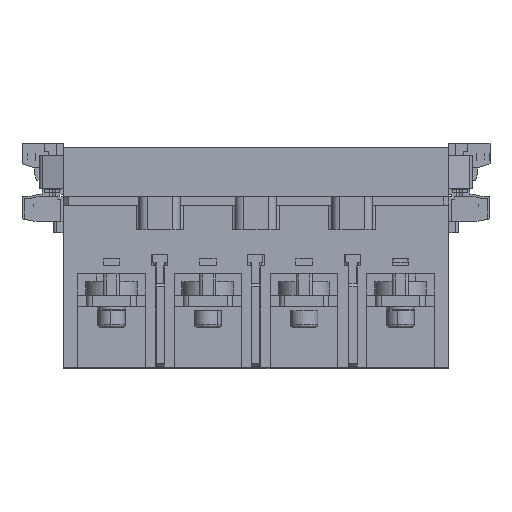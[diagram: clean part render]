
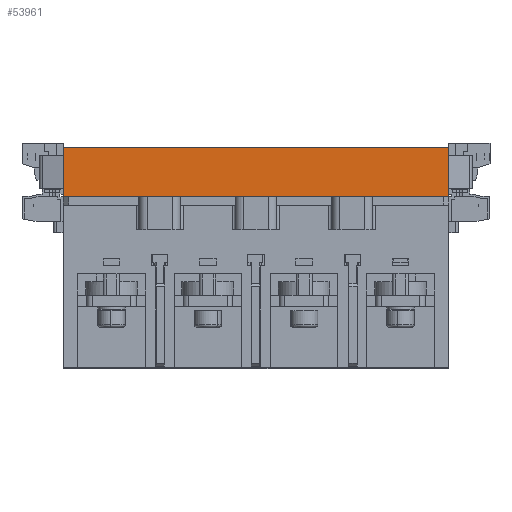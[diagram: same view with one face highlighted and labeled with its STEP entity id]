
A CAD part, front view. The second image highlights one B-rep face of the part: STEP entity #53961.
In plain terms, the highlighted planar face has unit normal (0, -1, 0).
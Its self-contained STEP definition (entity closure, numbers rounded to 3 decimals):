
#410 = CARTESIAN_POINT ( 'NONE',  ( 55.903, -53.647, 40. ) ) ;
#893 = VECTOR ( 'NONE', #31190, 1000. ) ;
#2138 = VECTOR ( 'NONE', #10526, 1000. ) ;
#5914 = VERTEX_POINT ( 'NONE', #31736 ) ;
#7305 = FACE_OUTER_BOUND ( 'NONE', #37268, .T. ) ;
#7423 = ORIENTED_EDGE ( 'NONE', *, *, #21860, .F. ) ;
#10526 = DIRECTION ( 'NONE',  ( 0., 0., -1. ) ) ;
#11222 = DIRECTION ( 'NONE',  ( 0., 1., 0. ) ) ;
#14968 = LINE ( 'NONE', #410, #2138 ) ;
#16946 = VERTEX_POINT ( 'NONE', #38004 ) ;
#17527 = CARTESIAN_POINT ( 'NONE',  ( -84.097, -53.647, 40. ) ) ;
#19989 = CARTESIAN_POINT ( 'NONE',  ( -84.097, -53.647, 22. ) ) ;
#21860 = EDGE_CURVE ( 'NONE', #23850, #16946, #43784, .T. ) ;
#22978 = CARTESIAN_POINT ( 'NONE',  ( -84.097, -53.647, 40. ) ) ;
#23850 = VERTEX_POINT ( 'NONE', #22978 ) ;
#26841 = EDGE_CURVE ( 'NONE', #5914, #45110, #50026, .T. ) ;
#30940 = DIRECTION ( 'NONE',  ( -1., 0., 0. ) ) ;
#31190 = DIRECTION ( 'NONE',  ( 1., 0., 0. ) ) ;
#31736 = CARTESIAN_POINT ( 'NONE',  ( 55.903, -53.647, 22. ) ) ;
#34529 = CARTESIAN_POINT ( 'NONE',  ( -84.097, -53.647, 40. ) ) ;
#37268 = EDGE_LOOP ( 'NONE', ( #56310, #50331, #7423, #51619 ) ) ;
#38004 = CARTESIAN_POINT ( 'NONE',  ( 55.903, -53.647, 40. ) ) ;
#38722 = VECTOR ( 'NONE', #30940, 1000. ) ;
#39738 = VECTOR ( 'NONE', #60842, 1000. ) ;
#39978 = PLANE ( 'NONE',  #49807 ) ;
#41301 = LINE ( 'NONE', #46615, #39738 ) ;
#43784 = LINE ( 'NONE', #17527, #893 ) ;
#45057 = EDGE_CURVE ( 'NONE', #16946, #5914, #14968, .T. ) ;
#45110 = VERTEX_POINT ( 'NONE', #19989 ) ;
#46615 = CARTESIAN_POINT ( 'NONE',  ( -84.097, -53.647, 40. ) ) ;
#49272 = DIRECTION ( 'NONE',  ( 0., 0., 1. ) ) ;
#49807 = AXIS2_PLACEMENT_3D ( 'NONE', #34529, #11222, #49272 ) ;
#50026 = LINE ( 'NONE', #50485, #38722 ) ;
#50331 = ORIENTED_EDGE ( 'NONE', *, *, #45057, .F. ) ;
#50485 = CARTESIAN_POINT ( 'NONE',  ( 24.509, -53.647, 22. ) ) ;
#51619 = ORIENTED_EDGE ( 'NONE', *, *, #60455, .T. ) ;
#53961 = ADVANCED_FACE ( 'NONE', ( #7305 ), #39978, .F. ) ;
#56310 = ORIENTED_EDGE ( 'NONE', *, *, #26841, .F. ) ;
#60455 = EDGE_CURVE ( 'NONE', #23850, #45110, #41301, .T. ) ;
#60842 = DIRECTION ( 'NONE',  ( 0., 0., -1. ) ) ;
